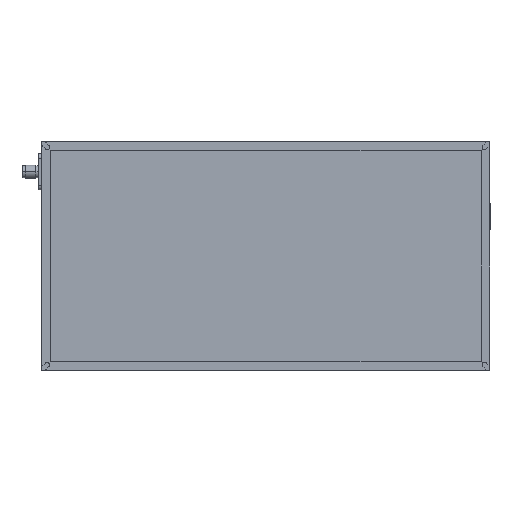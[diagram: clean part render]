
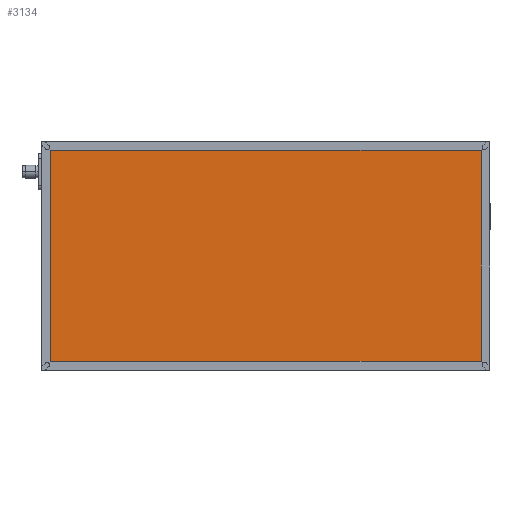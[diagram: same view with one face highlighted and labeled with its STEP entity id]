
A CAD part, top view. The second image highlights one B-rep face of the part: STEP entity #3134.
In plain terms, the highlighted planar face has unit normal (0, 0, 1).
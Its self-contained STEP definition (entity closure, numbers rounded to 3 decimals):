
#328 = LINE ( 'NONE', #1723, #5275 ) ;
#1416 = DIRECTION ( 'NONE',  ( 1., 0., 0. ) ) ;
#1518 = DIRECTION ( 'NONE',  ( 0., 1., 0. ) ) ;
#1723 = CARTESIAN_POINT ( 'NONE',  ( 4., 0., 41.85 ) ) ;
#1837 = DIRECTION ( 'NONE',  ( -1., 0., 0. ) ) ;
#2515 = CARTESIAN_POINT ( 'NONE',  ( 4., 4., 41.85 ) ) ;
#3075 = CARTESIAN_POINT ( 'NONE',  ( 396., 4., 41.85 ) ) ;
#3134 = ADVANCED_FACE ( 'NONE', ( #11327 ), #16723, .F. ) ;
#3309 = VERTEX_POINT ( 'NONE', #2515 ) ;
#3456 = ORIENTED_EDGE ( 'NONE', *, *, #9618, .T. ) ;
#4087 = CARTESIAN_POINT ( 'NONE',  ( 396., 196., 41.85 ) ) ;
#5275 = VECTOR ( 'NONE', #14797, 1000. ) ;
#5392 = VERTEX_POINT ( 'NONE', #11826 ) ;
#5736 = DIRECTION ( 'NONE',  ( -1., 0., 0. ) ) ;
#5815 = EDGE_CURVE ( 'NONE', #8863, #11035, #13551, .T. ) ;
#7155 = DIRECTION ( 'NONE',  ( 0., 0., -1. ) ) ;
#8040 = LINE ( 'NONE', #13360, #15057 ) ;
#8863 = VERTEX_POINT ( 'NONE', #3075 ) ;
#9320 = ORIENTED_EDGE ( 'NONE', *, *, #5815, .T. ) ;
#9358 = CARTESIAN_POINT ( 'NONE',  ( 396., 0., 41.85 ) ) ;
#9618 = EDGE_CURVE ( 'NONE', #5392, #3309, #328, .T. ) ;
#9638 = EDGE_CURVE ( 'NONE', #11035, #5392, #10961, .T. ) ;
#10175 = ORIENTED_EDGE ( 'NONE', *, *, #9638, .T. ) ;
#10730 = AXIS2_PLACEMENT_3D ( 'NONE', #16561, #7155, #1837 ) ;
#10961 = LINE ( 'NONE', #16099, #14777 ) ;
#11035 = VERTEX_POINT ( 'NONE', #4087 ) ;
#11327 = FACE_OUTER_BOUND ( 'NONE', #14676, .T. ) ;
#11554 = VECTOR ( 'NONE', #1518, 1000. ) ;
#11758 = EDGE_CURVE ( 'NONE', #3309, #8863, #8040, .T. ) ;
#11826 = CARTESIAN_POINT ( 'NONE',  ( 4., 196., 41.85 ) ) ;
#13360 = CARTESIAN_POINT ( 'NONE',  ( 0., 4., 41.85 ) ) ;
#13551 = LINE ( 'NONE', #9358, #11554 ) ;
#14676 = EDGE_LOOP ( 'NONE', ( #9320, #10175, #3456, #16135 ) ) ;
#14777 = VECTOR ( 'NONE', #5736, 1000. ) ;
#14797 = DIRECTION ( 'NONE',  ( 0., -1., 0. ) ) ;
#15057 = VECTOR ( 'NONE', #1416, 1000. ) ;
#16099 = CARTESIAN_POINT ( 'NONE',  ( 0., 196., 41.85 ) ) ;
#16135 = ORIENTED_EDGE ( 'NONE', *, *, #11758, .T. ) ;
#16561 = CARTESIAN_POINT ( 'NONE',  ( 0., 0., 41.85 ) ) ;
#16723 = PLANE ( 'NONE',  #10730 ) ;
